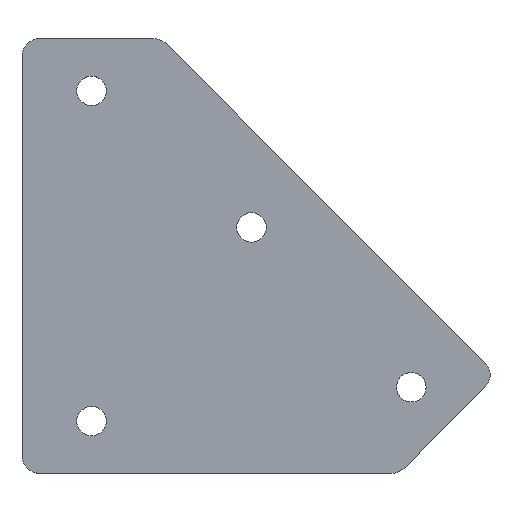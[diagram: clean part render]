
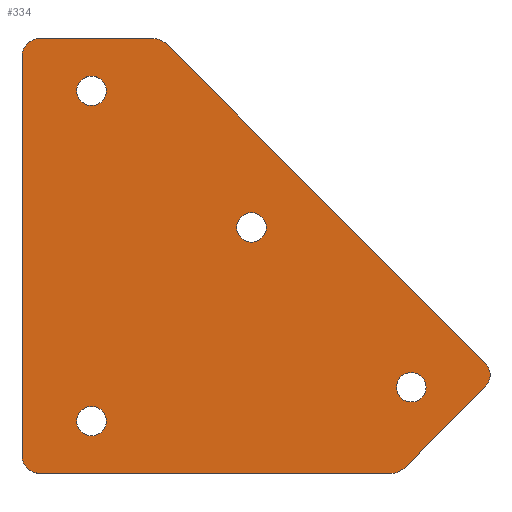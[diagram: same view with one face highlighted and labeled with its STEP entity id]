
A CAD part, top view. The second image highlights one B-rep face of the part: STEP entity #334.
In plain terms, the highlighted planar face has unit normal (0, 0, 1).
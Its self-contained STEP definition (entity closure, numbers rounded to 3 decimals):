
#19=FACE_BOUND('',#66,.T.);
#20=FACE_BOUND('',#67,.T.);
#21=FACE_BOUND('',#68,.T.);
#22=FACE_BOUND('',#69,.T.);
#29=PLANE('',#392);
#45=FACE_OUTER_BOUND('',#65,.T.);
#65=EDGE_LOOP('',(#292,#293,#294,#295,#296,#297,#298,#299,#300,#301));
#66=EDGE_LOOP('',(#302,#303));
#67=EDGE_LOOP('',(#304,#305));
#68=EDGE_LOOP('',(#306,#307));
#69=EDGE_LOOP('',(#308,#309));
#74=LINE('',#510,#98);
#81=LINE('',#542,#105);
#84=LINE('',#551,#108);
#92=LINE('',#586,#116);
#93=LINE('',#588,#117);
#98=VECTOR('',#407,10.);
#105=VECTOR('',#438,10.);
#108=VECTOR('',#447,10.);
#116=VECTOR('',#489,10.);
#117=VECTOR('',#492,10.);
#118=CIRCLE('',#356,5.);
#128=CIRCLE('',#369,5.);
#129=CIRCLE('',#372,5.);
#130=CIRCLE('',#375,5.);
#131=CIRCLE('',#377,5.);
#132=CIRCLE('',#379,4.25);
#133=CIRCLE('',#380,4.25);
#134=CIRCLE('',#382,4.25);
#135=CIRCLE('',#383,4.25);
#136=CIRCLE('',#385,4.25);
#137=CIRCLE('',#386,4.25);
#138=CIRCLE('',#388,4.25);
#139=CIRCLE('',#389,4.25);
#140=VERTEX_POINT('',#497);
#141=VERTEX_POINT('',#498);
#145=VERTEX_POINT('',#508);
#157=VERTEX_POINT('',#536);
#158=VERTEX_POINT('',#540);
#159=VERTEX_POINT('',#544);
#160=VERTEX_POINT('',#545);
#161=VERTEX_POINT('',#550);
#162=VERTEX_POINT('',#554);
#163=VERTEX_POINT('',#558);
#164=VERTEX_POINT('',#562);
#165=VERTEX_POINT('',#563);
#166=VERTEX_POINT('',#568);
#167=VERTEX_POINT('',#569);
#168=VERTEX_POINT('',#574);
#169=VERTEX_POINT('',#575);
#170=VERTEX_POINT('',#580);
#171=VERTEX_POINT('',#581);
#172=EDGE_CURVE('',#140,#141,#118,.T.);
#178=EDGE_CURVE('',#145,#140,#74,.T.);
#191=EDGE_CURVE('',#157,#145,#128,.T.);
#194=EDGE_CURVE('',#158,#157,#81,.T.);
#195=EDGE_CURVE('',#159,#160,#129,.T.);
#198=EDGE_CURVE('',#160,#161,#84,.T.);
#200=EDGE_CURVE('',#161,#162,#130,.T.);
#202=EDGE_CURVE('',#163,#158,#131,.T.);
#204=EDGE_CURVE('',#164,#165,#132,.T.);
#205=EDGE_CURVE('',#165,#164,#133,.T.);
#207=EDGE_CURVE('',#166,#167,#134,.T.);
#208=EDGE_CURVE('',#167,#166,#135,.T.);
#210=EDGE_CURVE('',#168,#169,#136,.T.);
#211=EDGE_CURVE('',#169,#168,#137,.T.);
#213=EDGE_CURVE('',#170,#171,#138,.T.);
#214=EDGE_CURVE('',#171,#170,#139,.T.);
#216=EDGE_CURVE('',#162,#163,#92,.T.);
#217=EDGE_CURVE('',#141,#159,#93,.T.);
#292=ORIENTED_EDGE('',*,*,#172,.F.);
#293=ORIENTED_EDGE('',*,*,#178,.F.);
#294=ORIENTED_EDGE('',*,*,#191,.F.);
#295=ORIENTED_EDGE('',*,*,#194,.F.);
#296=ORIENTED_EDGE('',*,*,#202,.F.);
#297=ORIENTED_EDGE('',*,*,#216,.F.);
#298=ORIENTED_EDGE('',*,*,#200,.F.);
#299=ORIENTED_EDGE('',*,*,#198,.F.);
#300=ORIENTED_EDGE('',*,*,#195,.F.);
#301=ORIENTED_EDGE('',*,*,#217,.F.);
#302=ORIENTED_EDGE('',*,*,#204,.T.);
#303=ORIENTED_EDGE('',*,*,#205,.T.);
#304=ORIENTED_EDGE('',*,*,#207,.T.);
#305=ORIENTED_EDGE('',*,*,#208,.T.);
#306=ORIENTED_EDGE('',*,*,#210,.T.);
#307=ORIENTED_EDGE('',*,*,#211,.T.);
#308=ORIENTED_EDGE('',*,*,#213,.T.);
#309=ORIENTED_EDGE('',*,*,#214,.T.);
#334=ADVANCED_FACE('',(#45,#19,#20,#21,#22),#29,.T.);
#356=AXIS2_PLACEMENT_3D('',#499,#397,#398);
#369=AXIS2_PLACEMENT_3D('',#537,#432,#433);
#372=AXIS2_PLACEMENT_3D('',#546,#441,#442);
#375=AXIS2_PLACEMENT_3D('',#555,#451,#452);
#377=AXIS2_PLACEMENT_3D('',#559,#456,#457);
#379=AXIS2_PLACEMENT_3D('',#564,#461,#462);
#380=AXIS2_PLACEMENT_3D('',#565,#463,#464);
#382=AXIS2_PLACEMENT_3D('',#570,#468,#469);
#383=AXIS2_PLACEMENT_3D('',#571,#470,#471);
#385=AXIS2_PLACEMENT_3D('',#576,#475,#476);
#386=AXIS2_PLACEMENT_3D('',#577,#477,#478);
#388=AXIS2_PLACEMENT_3D('',#582,#482,#483);
#389=AXIS2_PLACEMENT_3D('',#583,#484,#485);
#392=AXIS2_PLACEMENT_3D('',#589,#493,#494);
#397=DIRECTION('center_axis',(0.,0.,-1.));
#398=DIRECTION('ref_axis',(1.,0.,0.));
#407=DIRECTION('',(0.707,-0.707,0.));
#432=DIRECTION('center_axis',(0.,0.,-1.));
#433=DIRECTION('ref_axis',(0.383,0.924,0.));
#438=DIRECTION('',(1.,0.,0.));
#441=DIRECTION('center_axis',(0.,0.,-1.));
#442=DIRECTION('ref_axis',(0.383,-0.924,0.));
#447=DIRECTION('',(-1.,0.,0.));
#451=DIRECTION('center_axis',(0.,0.,-1.));
#452=DIRECTION('ref_axis',(-0.707,-0.707,0.));
#456=DIRECTION('center_axis',(0.,0.,-1.));
#457=DIRECTION('ref_axis',(-0.707,0.707,0.));
#461=DIRECTION('center_axis',(0.,0.,-1.));
#462=DIRECTION('ref_axis',(1.,0.,0.));
#463=DIRECTION('center_axis',(0.,0.,-1.));
#464=DIRECTION('ref_axis',(1.,0.,0.));
#468=DIRECTION('center_axis',(0.,0.,-1.));
#469=DIRECTION('ref_axis',(1.,0.,0.));
#470=DIRECTION('center_axis',(0.,0.,-1.));
#471=DIRECTION('ref_axis',(1.,0.,0.));
#475=DIRECTION('center_axis',(0.,0.,-1.));
#476=DIRECTION('ref_axis',(1.,0.,0.));
#477=DIRECTION('center_axis',(0.,0.,-1.));
#478=DIRECTION('ref_axis',(1.,0.,0.));
#482=DIRECTION('center_axis',(0.,0.,-1.));
#483=DIRECTION('ref_axis',(1.,0.,0.));
#484=DIRECTION('center_axis',(0.,0.,-1.));
#485=DIRECTION('ref_axis',(1.,0.,0.));
#489=DIRECTION('',(0.,1.,0.));
#492=DIRECTION('',(-0.707,-0.707,0.));
#493=DIRECTION('center_axis',(0.,0.,1.));
#494=DIRECTION('ref_axis',(1.,0.,0.));
#497=CARTESIAN_POINT('',(133.18,31.82,3.));
#498=CARTESIAN_POINT('',(133.18,24.749,3.));
#499=CARTESIAN_POINT('Origin',(129.645,28.284,3.));
#508=CARTESIAN_POINT('',(41.464,123.536,3.));
#510=CARTESIAN_POINT('',(136.716,28.284,3.));
#536=CARTESIAN_POINT('',(37.929,125.,3.));
#537=CARTESIAN_POINT('Origin',(37.929,120.,3.));
#540=CARTESIAN_POINT('',(5.,125.,3.));
#542=CARTESIAN_POINT('',(110.,125.,3.));
#544=CARTESIAN_POINT('',(109.896,1.464,3.));
#545=CARTESIAN_POINT('',(106.36,0.,3.));
#546=CARTESIAN_POINT('Origin',(106.36,5.,3.));
#550=CARTESIAN_POINT('',(5.,0.,3.));
#551=CARTESIAN_POINT('',(0.,0.,3.));
#554=CARTESIAN_POINT('',(0.,5.,3.));
#555=CARTESIAN_POINT('Origin',(5.,5.,3.));
#558=CARTESIAN_POINT('',(0.,120.,3.));
#559=CARTESIAN_POINT('Origin',(5.,120.,3.));
#562=CARTESIAN_POINT('',(70.255,70.711,3.));
#563=CARTESIAN_POINT('',(61.755,70.711,3.));
#564=CARTESIAN_POINT('Origin',(66.005,70.711,3.));
#565=CARTESIAN_POINT('Origin',(66.005,70.711,3.));
#568=CARTESIAN_POINT('',(116.217,24.749,3.));
#569=CARTESIAN_POINT('',(107.717,24.749,3.));
#570=CARTESIAN_POINT('Origin',(111.967,24.749,3.));
#571=CARTESIAN_POINT('Origin',(111.967,24.749,3.));
#574=CARTESIAN_POINT('',(24.25,110.,3.));
#575=CARTESIAN_POINT('',(15.75,110.,3.));
#576=CARTESIAN_POINT('Origin',(20.,110.,3.));
#577=CARTESIAN_POINT('Origin',(20.,110.,3.));
#580=CARTESIAN_POINT('',(24.25,15.,3.));
#581=CARTESIAN_POINT('',(15.75,15.,3.));
#582=CARTESIAN_POINT('Origin',(20.,15.,3.));
#583=CARTESIAN_POINT('Origin',(20.,15.,3.));
#586=CARTESIAN_POINT('',(0.,125.,3.));
#588=CARTESIAN_POINT('',(108.431,0.,3.));
#589=CARTESIAN_POINT('Origin',(52.569,53.,3.));
